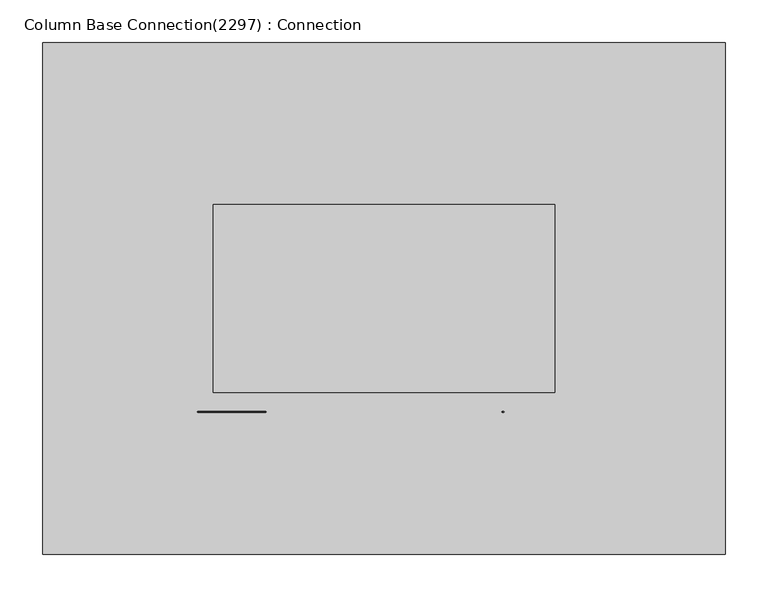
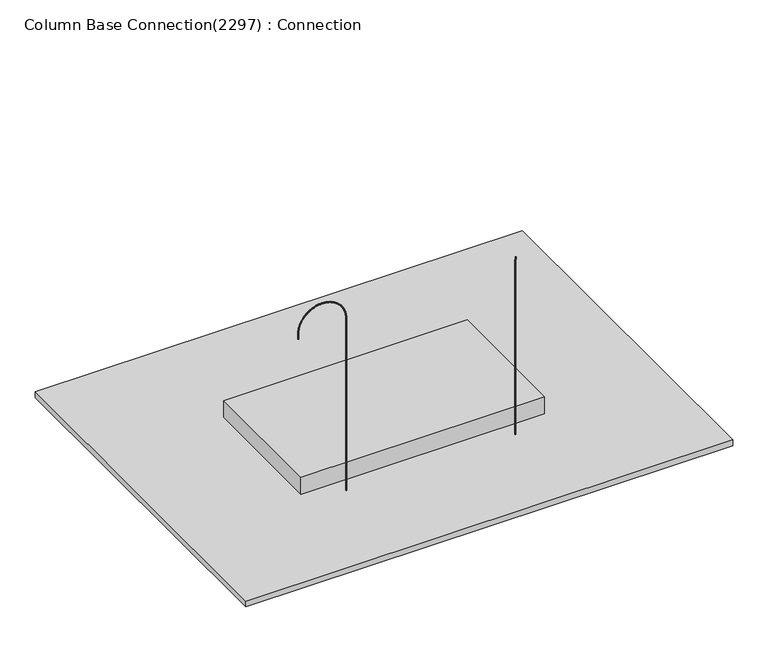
"""IFC4 building model written with IfcOpenShell, lengths in millimetres: fastener geometry, Column Base Connection(2297) : Connection."""

from ifc_helpers import new_model, si_unit, frame, origin, place, context, project, spatial, polyline, outline, extrude, source, transform, mapped, element, save


def column_base_connection_2297_connection_c4d7faf8(model_context):
    return source(origin(), model_context, "Body", "SweptSolid", [
        extrude(outline(polyline([(0.0, 0.0), (0.4, -0.6928203), (0.0, -1.3856406), (-0.8, -1.3856406), (-1.2000001, -0.6928203), (-0.8, 0.0), (0.0, 0.0)])), frame((139.2298557, -133.6928213, 276.282718), z_axis=(0.1975273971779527, 0.0, 0.9802973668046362), x_axis=(-0.9802973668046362, 0.0, 0.1975273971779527)), (0.0, 0.0, 1.0), 1.6),
        extrude(outline(polyline([(0.0, 0.0), (0.4000001, -0.6928203), (0.0, -1.3856406), (-0.7999999, -1.3856406), (-1.2, -0.6928203), (-0.7999999, 0.0), (0.0, 0.0)])), frame((138.9786296, -133.6928213, 274.7186942), z_axis=(0.158398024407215, 0.0, 0.9873753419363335), x_axis=(-0.9873753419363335, 0.0, 0.158398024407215)), (0.0, 0.0, 1.0), 1.6),
        extrude(outline(polyline([(0.0, 0.0), (0.4000001, -0.6928203), (0.0, -1.3856406), (-0.7999999, -1.3856406), (-1.2, -0.6928203), (-0.7999999, 0.0), (0.0, 0.0)])), frame((138.7897822, -133.6928213, 273.1459191), z_axis=(0.1190181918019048, 0.0, 0.9928920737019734), x_axis=(-0.9928920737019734, 0.0, 0.1190181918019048)), (0.0, 0.0, 1.0), 1.6),
        extrude(outline(polyline([(0.0, 0.0), (0.4, -0.6928203), (0.0, -1.3856406), (-0.8, -1.3856406), (-1.2, -0.6928203), (-0.8, 0.0), (0.0, 0.0)])), frame((138.6636121, -133.6928213, 271.5668795), z_axis=(0.07945016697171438, 0.0, 0.9968388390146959), x_axis=(-0.9968388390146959, 0.0, 0.07945016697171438)), (0.0, 0.0, 1.0), 1.6),
        extrude(outline(polyline([(0.0, 0.0), (0.3999999, -0.6928203), (0.0, -1.3856406), (-0.8000001, -1.3856406), (-1.2, -0.6928203), (-0.8000001, 0.0), (0.0, 0.0)])), frame((138.6003189, -133.6928213, 269.9840722), z_axis=(0.03975651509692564, 0.0, 0.999209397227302), x_axis=(-0.999209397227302, 0.0, 0.03975651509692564)), (0.0, 0.0, 1.0), 1.6),
        extrude(outline(polyline([(138.6000027, -133.6928213), (138.2000027, -133.000001), (138.6000027, -132.3071807), (139.4000027, -132.3071807), (139.8000027, -133.000001), (139.4000027, -133.6928213), (138.6000027, -133.6928213)])), frame((0.0, 0.0, -78.0), z_axis=(0.0, 0.0, 1.0), x_axis=(1.0, 0.0, 0.0)), (0.0, 0.0, 1.0), 348.0),
        extrude(outline(polyline([(-163.0000027, -109.000001), (-115.0000027, -109.000001), (-115.0000027, -157.000001), (-163.0000027, -157.000001), (-163.0000027, -109.000001)])), frame((0.0, 0.0, -50.0), z_axis=(0.0, 0.0, 1.0), x_axis=(1.0, 0.0, 0.0)), (0.0, 0.0, 1.0), 10.0),
        extrude(outline(polyline([(-217.4575041, -133.6928213), (-218.2575041, -133.6928213), (-218.6575041, -133.000001), (-218.2575041, -132.3071807), (-217.4575041, -132.3071807), (-217.0575041, -133.000001), (-217.4575041, -133.6928213)])), frame((0.0, 0.0, 260.4), z_axis=(0.0, 0.0, 1.0), x_axis=(1.0, 0.0, 0.0)), (0.0, 0.0, 1.0), 8.0),
        extrude(outline(polyline([(-217.4575041, -133.6928213), (-218.2575041, -133.6928213), (-218.6575041, -133.000001), (-218.2575041, -132.3071807), (-217.4575041, -132.3071807), (-217.0575041, -133.000001), (-217.4575041, -133.6928213)])), frame((0.0, 0.0, 268.3681696), z_axis=(0.0, 0.0, 1.0), x_axis=(1.0, 0.0, 0.0)), (0.0, 0.0, 1.0), 1.6),
        extrude(outline(polyline([(0.0, 0.0), (0.8000001, 0.0), (1.2, -0.6928203), (0.8000001, -1.3856406), (0.0, -1.3856406), (-0.3999999, -0.6928203), (0.0, 0.0)])), frame((-217.4590858, -133.6928213, 269.9204618), z_axis=(0.03975651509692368, 0.0, 0.999209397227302), x_axis=(-0.999209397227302, 0.0, 0.03975651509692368)), (0.0, 0.0, 1.0), 1.6),
        extrude(outline(polyline([(0.0, 0.0), (0.7999999, 0.0), (1.2, -0.6928203), (0.7999999, -1.3856406), (0.0, -1.3856406), (-0.4000001, -0.6928203), (0.0, 0.0)])), frame((-217.3989526, -133.6928213, 271.4715896), z_axis=(0.07945016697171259, 0.0, 0.996838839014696), x_axis=(-0.996838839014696, 0.0, 0.07945016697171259)), (0.0, 0.0, 1.0), 1.6),
        extrude(outline(polyline([(0.0, 0.0), (0.8, 0.0), (1.2, -0.6928203), (0.8, -1.3856406), (0.0, -1.3856406), (-0.4, -0.6928203), (0.0, 0.0)])), frame((-217.2771994, -133.6928213, 273.0191004), z_axis=(0.11901819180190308, 0.0, 0.9928920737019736), x_axis=(-0.9928920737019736, 0.0, 0.11901819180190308)), (0.0, 0.0, 1.0), 1.6),
        extrude(outline(polyline([(0.0, 0.0), (0.8, 0.0), (1.2000001, -0.6928203), (0.8, -1.3856406), (0.0, -1.3856406), (-0.4, -0.6928203), (0.0, 0.0)])), frame((-217.0940188, -133.6928213, 274.5605473), z_axis=(0.15839802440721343, 0.0, 0.9873753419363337), x_axis=(-0.9873753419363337, 0.0, 0.15839802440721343)), (0.0, 0.0, 1.0), 1.6),
        extrude(outline(polyline([(0.0, 0.0), (0.8, 0.0), (1.2, -0.6928203), (0.8, -1.3856406), (0.0, -1.3856406), (-0.4, -0.6928203), (0.0, 0.0)])), frame((-216.8497006, -133.6928213, 276.0934928), z_axis=(0.19752739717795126, 0.0, 0.9802973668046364), x_axis=(-0.9802973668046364, 0.0, 0.19752739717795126)), (0.0, 0.0, 1.0), 1.6),
        extrude(outline(polyline([(0.0, 0.0), (0.8, 0.0), (1.2, -0.6928203), (0.8, -1.3856406), (0.0, -1.3856406), (-0.4000001, -0.6928203), (0.0, 0.0)])), frame((-216.5446309, -133.6928213, 277.6155132), z_axis=(0.23634443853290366, 0.0, 0.9716693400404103), x_axis=(-0.9716693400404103, 0.0, 0.23634443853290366)), (0.0, 0.0, 1.0), 1.6),
        extrude(outline(polyline([(0.0, 0.0), (0.8, 0.0), (1.1999999, -0.6928203), (0.8, -1.3856406), (0.0, -1.3856406), (-0.4, -0.6928203), (0.0, 0.0)])), frame((-216.1792922, -133.6928213, 279.1242018), z_axis=(0.2747877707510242, 0.0, 0.9615049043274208), x_axis=(-0.9615049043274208, 0.0, 0.2747877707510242)), (0.0, 0.0, 1.0), 1.6),
        extrude(outline(polyline([(0.0, 0.0), (0.8, 0.0), (1.2, -0.6928203), (0.8, -1.3856406), (0.0, -1.3856406), (-0.4, -0.6928203), (0.0, 0.0)])), frame((-215.7542621, -133.6928213, 280.6171729), z_axis=(0.31279660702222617, 0.0, 0.949820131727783), x_axis=(-0.949820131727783, 0.0, 0.31279660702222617)), (0.0, 0.0, 1.0), 1.6),
        extrude(outline(polyline([(0.0, 0.0), (0.8, 0.0), (1.2, -0.6928203), (0.8, -1.3856406), (0.0, -1.3856406), (-0.4, -0.6928203), (0.0, 0.0)])), frame((-215.2702127, -133.6928213, 282.0920661), z_axis=(0.3503108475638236, 0.0, 0.9366334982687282), x_axis=(-0.9366334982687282, 0.0, 0.3503108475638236)), (0.0, 0.0, 1.0), 1.6),
        extrude(outline(polyline([(0.0, 0.0), (0.7999999, 0.0), (1.2, -0.6928203), (0.7999999, -1.3856406), (0.0, -1.3856406), (-0.4000001, -0.6928203), (0.0, 0.0)])), frame((-214.7279094, -133.6928213, 283.546549), z_axis=(0.38727117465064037, 0.0, 0.921965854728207), x_axis=(-0.921965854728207, 0.0, 0.38727117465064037)), (0.0, 0.0, 1.0), 1.6),
        extrude(outline(polyline([(0.0, 0.0), (0.8, 0.0), (1.2, -0.6928203), (0.8, -1.3856406), (0.0, -1.3856406), (-0.3999999, -0.6928203), (0.0, 0.0)])), frame((-214.1282096, -133.6928213, 284.9783219), z_axis=(0.4236191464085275, 0.0, 0.9058403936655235), x_axis=(-0.9058403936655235, 0.0, 0.4236191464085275)), (0.0, 0.0, 1.0), 1.6),
        extrude(outline(polyline([(0.0, 0.0), (0.8, 0.0), (1.2, -0.6928203), (0.8, -1.3856406), (0.0, -1.3856406), (-0.4, -0.6928203), (0.0, 0.0)])), frame((-213.4720617, -133.6928213, 286.3851209), z_axis=(0.45929728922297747, 0.0, 0.8882826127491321), x_axis=(-0.8882826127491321, 0.0, 0.45929728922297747)), (0.0, 0.0, 1.0), 1.6),
        extrude(outline(polyline([(0.0, 0.0), (0.8, 0.0), (1.2, -0.6928203), (0.8, -1.3856406), (0.0, -1.3856406), (-0.4, -0.6928203), (0.0, 0.0)])), frame((-212.7605031, -133.6928213, 287.7647216), z_axis=(0.4942491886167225, 0.0, 0.8693202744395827), x_axis=(-0.8693202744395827, 0.0, 0.4942491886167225)), (0.0, 0.0, 1.0), 1.6),
        extrude(outline(polyline([(0.0, 0.0), (0.8, 0.0), (1.2, -0.6928203), (0.8, -1.3856406), (0.0, -1.3856406), (-0.4, -0.6928203), (0.0, 0.0)])), frame((-211.994659, -133.6928213, 289.1149424), z_axis=(0.5284195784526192, 0.0, 0.848983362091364), x_axis=(-0.848983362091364, 0.0, 0.5284195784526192)), (0.0, 0.0, 1.0), 1.6),
        extrude(outline(polyline([(0.0, 0.0), (0.8000001, 0.0), (1.2, -0.6928203), (0.8000001, -1.3856406), (0.0, -1.3856406), (-0.3999999, -0.6928203), (0.0, 0.0)])), frame((-211.1757402, -133.6928213, 290.4336484), z_axis=(0.5617544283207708, 0.0, 0.8273040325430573), x_axis=(-0.8273040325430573, 0.0, 0.5617544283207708)), (0.0, 0.0, 1.0), 1.6),
        extrude(outline(polyline([(0.0, 0.0), (0.8, 0.0), (1.2000001, -0.6928203), (0.8, -1.3856406), (0.0, -1.3856406), (-0.4, -0.6928203), (0.0, 0.0)])), frame((-210.3050418, -133.6928213, 291.7187545), z_axis=(0.5942010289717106, 0.0, 0.8043165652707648), x_axis=(-0.8043165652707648, 0.0, 0.5942010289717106)), (0.0, 0.0, 1.0), 1.6),
        extrude(outline(polyline([(0.0, 0.0), (0.8, 0.0), (1.2, -0.6928203), (0.8, -1.3856406), (0.0, -1.3856406), (-0.4, -0.6928203), (0.0, 0.0)])), frame((-209.3839404, -133.6928213, 292.9682287), z_axis=(0.6257080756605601, 0.0, 0.780057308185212), x_axis=(-0.780057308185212, 0.0, 0.6257080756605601)), (0.0, 0.0, 1.0), 1.6),
        extrude(outline(polyline([(0.0, 0.0), (0.8, 0.0), (1.2, -0.6928203), (0.8, -1.3856406), (0.0, -1.3856406), (-0.4, -0.6928203), (0.0, 0.0)])), frame((-208.4138924, -133.6928213, 294.1800953), z_axis=(0.6562257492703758, 0.0, 0.75456462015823), x_axis=(-0.75456462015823, 0.0, 0.6562257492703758)), (0.0, 0.0, 1.0), 1.6),
        extrude(outline(polyline([(0.0, 0.0), (0.8, 0.0), (1.2, -0.6928203), (0.8, -1.3856406), (0.0, -1.3856406), (-0.4, -0.6928203), (0.0, 0.0)])), frame((-207.3964318, -133.6928213, 295.352438), z_axis=(0.6857057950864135, 0.0, 0.7278788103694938), x_axis=(-0.7278788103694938, 0.0, 0.6857057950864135)), (0.0, 0.0, 1.0), 1.6),
        extrude(outline(polyline([(0.0, 0.0), (0.8, 0.0), (1.2000001, -0.6928203), (0.8, -1.3856406), (0.0, -1.3856406), (-0.4, -0.6928203), (0.0, 0.0)])), frame((-206.3331674, -133.6928213, 296.4834031), z_axis=(0.7141015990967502, 0.0, 0.7000420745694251), x_axis=(-0.7000420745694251, 0.0, 0.7141015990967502)), (0.0, 0.0, 1.0), 1.6),
        extrude(outline(polyline([(0.0, 0.0), (0.8, 0.0), (1.2, -0.6928203), (0.8, -1.3856406), (0.0, -1.3856406), (-0.4, -0.6928203), (0.0, 0.0)])), frame((-205.2257803, -133.6928213, 297.5712025), z_axis=(0.7413682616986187, 0.0, 0.6710984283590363), x_axis=(-0.6710984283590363, 0.0, 0.7413682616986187)), (0.0, 0.0, 1.0), 1.6),
        extrude(outline(polyline([(0.0, 0.0), (0.8, 0.0), (1.2, -0.6928203), (0.8, -1.3856406), (0.0, -1.3856406), (-0.4, -0.6928203), (0.0, 0.0)])), frame((-204.0760216, -133.6928213, 298.614116), z_axis=(0.7674626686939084, 0.0, 0.6410936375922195), x_axis=(-0.6410936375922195, 0.0, 0.7674626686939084)), (0.0, 0.0, 1.0), 1.6),
        extrude(outline(polyline([(0.0, 0.0), (0.8, 0.0), (1.2, -0.6928203), (0.8, -1.3856406), (0.0, -1.3856406), (-0.3999999, -0.6928203), (0.0, 0.0)])), frame((-202.8857093, -133.6928213, 299.6104945), z_axis=(0.792343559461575, 0.0, 0.6100751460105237), x_axis=(-0.6100751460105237, 0.0, 0.792343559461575)), (0.0, 0.0, 1.0), 1.6),
        extrude(outline(polyline([(0.0, 0.0), (0.8, 0.0), (1.2, -0.6928203), (0.8, -1.3856406), (0.0, -1.3856406), (-0.4, -0.6928203), (0.0, 0.0)])), frame((-201.6567256, -133.6928213, 300.5587626), z_axis=(0.8159715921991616, 0.0, 0.5780920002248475), x_axis=(-0.5780920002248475, 0.0, 0.8159715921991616)), (0.0, 0.0, 1.0), 1.6),
        extrude(outline(polyline([(0.0, 0.0), (0.8, 0.0), (1.2, -0.6928203), (0.8, -1.3856406), (0.0, -1.3856406), (-0.4, -0.6928203), (0.0, 0.0)])), frame((-200.3910136, -133.6928213, 301.457421), z_axis=(0.8383094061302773, 0.0, 0.5451947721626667), x_axis=(-0.5451947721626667, 0.0, 0.8383094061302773)), (0.0, 0.0, 1.0), 1.6),
        extrude(outline(polyline([(0.0, 0.0), (0.8, 0.0), (1.2, -0.6928203), (0.8, -1.3856406), (0.0, -1.3856406), (-0.4, -0.6928203), (0.0, 0.0)])), frame((-199.0905748, -133.6928213, 302.3050485), z_axis=(0.8593216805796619, 0.0, 0.511435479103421), x_axis=(-0.511435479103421, 0.0, 0.8593216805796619)), (0.0, 0.0, 1.0), 1.6),
        extrude(outline(polyline([(0.0, 0.0), (0.8, 0.0), (1.2, -0.6928203), (0.8, -1.3856406), (0.0, -1.3856406), (-0.4, -0.6928203), (0.0, 0.0)])), frame((-197.7574655, -133.6928213, 303.100305), z_axis=(0.8789751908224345, 0.0, 0.47686750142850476), x_axis=(-0.47686750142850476, 0.0, 0.8789751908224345)), (0.0, 0.0, 1.0), 1.6),
        extrude(outline(polyline([(0.0, 0.0), (0.7999999, 0.0), (1.2, -0.6928203), (0.7999999, -1.3856406), (0.0, -1.3856406), (-0.4000001, -0.6928203), (0.0, 0.0)])), frame((-196.3937934, -133.6928213, 303.841933), z_axis=(0.897238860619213, 0.0, 0.44154549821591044), x_axis=(-0.44154549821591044, 0.0, 0.897238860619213)), (0.0, 0.0, 1.0), 1.6),
        extrude(outline(polyline([(0.0, 0.0), (0.8, 0.0), (1.1999999, -0.6928203), (0.8, -1.3856406), (0.0, -1.3856406), (-0.4000001, -0.6928203), (0.0, 0.0)])), frame((-195.0017149, -133.6928213, 304.5287598), z_axis=(0.9140838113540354, 0.0, 0.4055253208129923), x_axis=(-0.4055253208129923, 0.0, 0.9140838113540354)), (0.0, 0.0, 1.0), 1.6),
        extrude(outline(polyline([(0.0, 0.0), (0.8000001, 0.0), (1.2, -0.6928203), (0.8000001, -1.3856406), (0.0, -1.3856406), (-0.4, -0.6928203), (0.0, 0.0)])), frame((-193.5834312, -133.6928213, 305.1596993), z_axis=(0.9294834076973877, 0.0, 0.36886392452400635), x_axis=(-0.36886392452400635, 0.0, 0.9294834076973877)), (0.0, 0.0, 1.0), 1.6),
        extrude(outline(polyline([(0.0, 0.0), (0.8, 0.0), (1.2, -0.6928203), (0.8, -1.3856406), (0.0, -1.3856406), (-0.4, -0.6928203), (0.0, 0.0)])), frame((-192.1411848, -133.6928213, 305.7337541), z_axis=(0.9434132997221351, 0.0, 0.3316192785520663), x_axis=(-0.3316192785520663, 0.0, 0.9434132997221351)), (0.0, 0.0, 1.0), 1.6),
        extrude(outline(polyline([(0.0, 0.0), (0.8000001, 0.0), (1.2000001, -0.6928203), (0.8000001, -1.3856406), (0.0, -1.3856406), (-0.4, -0.6928203), (0.0, 0.0)])), frame((-190.6772562, -133.6928213, 306.2500163), z_axis=(0.9558514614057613, 0.0, 0.29385027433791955), x_axis=(-0.29385027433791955, 0.0, 0.9558514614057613)), (0.0, 0.0, 1.0), 1.6),
        extrude(outline(polyline([(0.0, 0.0), (0.8, 0.0), (1.1999999, -0.6928203), (0.8, -1.3856406), (0.0, -1.3856406), (-0.4, -0.6928203), (0.0, 0.0)])), frame((-189.1939603, -133.6928213, 306.7076697), z_axis=(0.9667782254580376, 0.0, 0.2556166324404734), x_axis=(-0.2556166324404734, 0.0, 0.9667782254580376)), (0.0, 0.0, 1.0), 1.6),
        extrude(outline(polyline([(0.0, 0.0), (0.8000001, 0.0), (1.2, -0.6928203), (0.8000001, -1.3856406), (0.0, -1.3856406), (-0.4, -0.6928203), (0.0, 0.0)])), frame((-187.6936423, -133.6928213, 307.1059905), z_axis=(0.9761763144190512, 0.0, 0.21697880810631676), x_axis=(-0.21697880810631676, 0.0, 0.9761763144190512)), (0.0, 0.0, 1.0), 1.6),
        extrude(outline(polyline([(0.0, 0.0), (0.8, 0.0), (1.2, -0.6928203), (0.8, -1.3856406), (0.0, -1.3856406), (-0.4, -0.6928203), (0.0, 0.0)])), frame((-186.1786746, -133.6928213, 307.4443491), z_axis=(0.9840308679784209, 0.0, 0.17799789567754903), x_axis=(-0.17799789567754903, 0.0, 0.9840308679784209)), (0.0, 0.0, 1.0), 1.6),
        extrude(outline(polyline([(0.0, 0.0), (0.7999999, 0.0), (1.1999999, -0.6928203), (0.7999999, -1.3856406), (0.0, -1.3856406), (-0.4, -0.6928203), (0.0, 0.0)])), frame((-184.6514528, -133.6928213, 307.7222103), z_axis=(0.9903294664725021, 0.0, 0.13873553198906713), x_axis=(-0.13873553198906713, 0.0, 0.9903294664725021)), (0.0, 0.0, 1.0), 1.6),
        extrude(outline(polyline([(0.0, 0.0), (0.8000001, 0.0), (1.2, -0.6928203), (0.8000001, -1.3856406), (0.0, -1.3856406), (-0.3999999, -0.6928203), (0.0, 0.0)])), frame((-183.1143915, -133.6928213, 307.9391347), z_axis=(0.9950621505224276, 0.0, 0.09925379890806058), x_axis=(-0.09925379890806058, 0.0, 0.9950621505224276)), (0.0, 0.0, 1.0), 1.6),
        extrude(outline(polyline([(0.0, 0.0), (0.8000001, 0.0), (1.2000001, -0.6928203), (0.8000001, -1.3856406), (0.0, -1.3856406), (-0.3999999, -0.6928203), (0.0, 0.0)])), frame((-181.5699213, -133.6928213, 308.0947795), z_axis=(0.9982214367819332, 0.0, 0.05961512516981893), x_axis=(-0.05961512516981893, 0.0, 0.9982214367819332)), (0.0, 0.0, 1.0), 1.6),
        extrude(outline(polyline([(0.0, 0.0), (0.8, 0.0), (1.2, -0.6928203), (0.8, -1.3856406), (0.0, -1.3856406), (-0.4, -0.6928203), (0.0, 0.0)])), frame((-180.0204843, -133.6928213, 308.1888985), z_axis=(0.9998023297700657, 0.0, 0.019882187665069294), x_axis=(-0.019882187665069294, 0.0, 0.9998023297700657)), (0.0, 0.0, 1.0), 1.6),
        extrude(outline(polyline([(0.0, 0.0), (0.4, -0.6928203), (0.0, -1.3856406), (-0.7999999, -1.3856406), (-1.2, -0.6928203), (-0.7999999, 0.0), (0.0, 0.0)])), frame((-176.8688466, -133.6928213, 308.1895314), z_axis=(-0.9998023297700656, 0.0, 0.019882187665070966), x_axis=(-0.019882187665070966, 0.0, -0.9998023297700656)), (0.0, 0.0, 1.0), 1.6),
        extrude(outline(polyline([(0.0, 0.0), (0.4, -0.6928203), (0.0, -1.3856406), (-0.8000001, -1.3856406), (-1.2, -0.6928203), (-0.8000001, 0.0), (0.0, 0.0)])), frame((-175.3193593, -133.6928213, 308.0966771), z_axis=(-0.9982214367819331, 0.0, 0.0596151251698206), x_axis=(-0.0596151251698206, 0.0, -0.9982214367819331)), (0.0, 0.0, 1.0), 1.6),
        extrude(outline(polyline([(0.0, 0.0), (0.3999999, -0.6928203), (0.0, -1.3856406), (-0.8000001, -1.3856406), (-1.2, -0.6928203), (-0.8000001, 0.0), (0.0, 0.0)])), frame((-173.7747885, -133.6928213, 307.942294), z_axis=(-0.9950621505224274, 0.0, 0.09925379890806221), x_axis=(-0.09925379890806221, 0.0, -0.9950621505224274)), (0.0, 0.0, 1.0), 1.6),
        extrude(outline(polyline([(0.0, 0.0), (0.4, -0.6928203), (0.0, -1.3856406), (-0.7999999, -1.3856406), (-1.1999999, -0.6928203), (-0.7999999, 0.0), (0.0, 0.0)])), frame((-172.2375766, -133.6928213, 307.7266263), z_axis=(-0.9903294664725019, 0.0, 0.13873553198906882), x_axis=(-0.13873553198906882, 0.0, -0.9903294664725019)), (0.0, 0.0, 1.0), 1.6),
        extrude(outline(polyline([(0.0, 0.0), (0.3999999, -0.6928203), (0.0, -1.3856406), (-0.8, -1.3856406), (-1.2000001, -0.6928203), (-0.8, 0.0), (0.0, 0.0)])), frame((-170.7101543, -133.6928213, 307.4500148), z_axis=(-0.9840308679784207, 0.0, 0.17799789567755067), x_axis=(-0.17799789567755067, 0.0, -0.9840308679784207)), (0.0, 0.0, 1.0), 1.6),
        extrude(outline(polyline([(0.0, 0.0), (0.4000001, -0.6928203), (0.0, -1.3856406), (-0.8, -1.3856406), (-1.1999999, -0.6928203), (-0.8, 0.0), (0.0, 0.0)])), frame((-169.1949366, -133.6928213, 307.1128971), z_axis=(-0.9761763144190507, 0.0, 0.2169788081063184), x_axis=(-0.2169788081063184, 0.0, -0.9761763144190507)), (0.0, 0.0, 1.0), 1.6),
        extrude(outline(polyline([(0.0, 0.0), (0.4, -0.6928203), (0.0, -1.3856406), (-0.7999999, -1.3856406), (-1.1999999, -0.6928203), (-0.7999999, 0.0), (0.0, 0.0)])), frame((-167.6943195, -133.6928213, 306.7158061), z_axis=(-0.9667782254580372, 0.0, 0.255616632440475), x_axis=(-0.255616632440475, 0.0, -0.9667782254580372)), (0.0, 0.0, 1.0), 1.6),
        extrude(outline(polyline([(0.0, 0.0), (0.4, -0.6928203), (0.0, -1.3856406), (-0.8, -1.3856406), (-1.1999999, -0.6928203), (-0.8, 0.0), (0.0, 0.0)])), frame((-166.2106757, -133.6928213, 306.2593697), z_axis=(-0.9558514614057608, 0.0, 0.2938502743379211), x_axis=(-0.2938502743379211, 0.0, -0.9558514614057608)), (0.0, 0.0, 1.0), 1.6),
        extrude(outline(polyline([(0.0, 0.0), (0.4000001, -0.6928203), (0.0, -1.3856406), (-0.8, -1.3856406), (-1.1999999, -0.6928203), (-0.8, 0.0), (0.0, 0.0)])), frame((-164.7463512, -133.6928213, 305.7443097), z_axis=(-0.9434132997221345, 0.0, 0.33161927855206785), x_axis=(-0.33161927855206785, 0.0, -0.9434132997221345)), (0.0, 0.0, 1.0), 1.6),
        extrude(outline(polyline([(0.0, 0.0), (0.4, -0.6928203), (0.0, -1.3856406), (-0.8000001, -1.3856406), (-1.2, -0.6928203), (-0.8000001, 0.0), (0.0, 0.0)])), frame((-163.3036614, -133.6928213, 305.1714404), z_axis=(-0.929483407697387, 0.0, 0.36886392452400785), x_axis=(-0.36886392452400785, 0.0, -0.929483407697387)), (0.0, 0.0, 1.0), 1.6),
        extrude(outline(polyline([(0.0, 0.0), (0.4000001, -0.6928203), (0.0, -1.3856406), (-0.7999999, -1.3856406), (-1.1999999, -0.6928203), (-0.7999999, 0.0), (0.0, 0.0)])), frame((-161.8848875, -133.6928213, 304.5416678), z_axis=(-0.9140838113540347, 0.0, 0.4055253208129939), x_axis=(-0.4055253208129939, 0.0, -0.9140838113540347)), (0.0, 0.0, 1.0), 1.6),
        extrude(outline(polyline([(0.0, 0.0), (0.4, -0.6928203), (0.0, -1.3856406), (-0.8, -1.3856406), (-1.2, -0.6928203), (-0.8, 0.0), (0.0, 0.0)])), frame((-160.4922729, -133.6928213, 303.8559875), z_axis=(-0.8972388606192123, 0.0, 0.4415454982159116), x_axis=(-0.4415454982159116, 0.0, -0.8972388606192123)), (0.0, 0.0, 1.0), 1.6),
        extrude(outline(polyline([(0.0, 0.0), (0.4, -0.6928203), (0.0, -1.3856406), (-0.8, -1.3856406), (-1.2, -0.6928203), (-0.8, 0.0), (0.0, 0.0)])), frame((-159.1280195, -133.6928213, 303.1154839), z_axis=(-0.8789751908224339, 0.0, 0.4768675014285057), x_axis=(-0.4768675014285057, 0.0, -0.8789751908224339)), (0.0, 0.0, 1.0), 1.6),
        extrude(outline(polyline([(0.0, 0.0), (0.4, -0.6928203), (0.0, -1.3856406), (-0.8, -1.3856406), (-1.2, -0.6928203), (-0.8, 0.0), (0.0, 0.0)])), frame((-157.7942845, -133.6928213, 302.3213277), z_axis=(-0.8593216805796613, 0.0, 0.5114354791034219), x_axis=(-0.5114354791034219, 0.0, -0.8593216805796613)), (0.0, 0.0, 1.0), 1.6),
        extrude(outline(polyline([(0.0, 0.0), (0.4, -0.6928203), (0.0, -1.3856406), (-0.8, -1.3856406), (-1.2, -0.6928203), (-0.8, 0.0), (0.0, 0.0)])), frame((-156.4931769, -133.6928213, 301.4747747), z_axis=(-0.8383094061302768, 0.0, 0.5451947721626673), x_axis=(-0.5451947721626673, 0.0, -0.8383094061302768)), (0.0, 0.0, 1.0), 1.6),
        extrude(outline(polyline([(0.0, 0.0), (0.4, -0.6928203), (0.0, -1.3856406), (-0.8, -1.3856406), (-1.2, -0.6928203), (-0.8, 0.0), (0.0, 0.0)])), frame((-155.2267539, -133.6928213, 300.5771635), z_axis=(-0.8159715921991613, 0.0, 0.5780920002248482), x_axis=(-0.5780920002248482, 0.0, -0.8159715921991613)), (0.0, 0.0, 1.0), 1.6),
        extrude(outline(polyline([(0.0, 0.0), (0.3999999, -0.6928203), (0.0, -1.3856406), (-0.8, -1.3856406), (-1.2, -0.6928203), (-0.8, 0.0), (0.0, 0.0)])), frame((-153.9970181, -133.6928213, 299.6299134), z_axis=(-0.7923435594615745, 0.0, 0.6100751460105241), x_axis=(-0.6100751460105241, 0.0, -0.7923435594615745)), (0.0, 0.0, 1.0), 1.6),
        extrude(outline(polyline([(0.0, 0.0), (0.4000001, -0.6928203), (0.0, -1.3856406), (-0.8, -1.3856406), (-1.2, -0.6928203), (-0.8, 0.0), (0.0, 0.0)])), frame((-152.8059138, -133.6928213, 298.6345222), z_axis=(-0.7674626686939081, 0.0, 0.6410936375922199), x_axis=(-0.6410936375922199, 0.0, -0.7674626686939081)), (0.0, 0.0, 1.0), 1.6),
        extrude(outline(polyline([(0.0, 0.0), (0.3999999, -0.6928203), (0.0, -1.3856406), (-0.8, -1.3856406), (-1.2, -0.6928203), (-0.8, 0.0), (0.0, 0.0)])), frame((-151.6553246, -133.6928213, 297.5925638), z_axis=(-0.7413682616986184, 0.0, 0.6710984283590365), x_axis=(-0.6710984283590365, 0.0, -0.7413682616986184)), (0.0, 0.0, 1.0), 1.6),
        extrude(outline(polyline([(0.0, 0.0), (0.4, -0.6928203), (0.0, -1.3856406), (-0.8, -1.3856406), (-1.2, -0.6928203), (-0.8, 0.0), (0.0, 0.0)])), frame((-150.5470696, -133.6928213, 296.5056858), z_axis=(-0.7141015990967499, 0.0, 0.7000420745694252), x_axis=(-0.7000420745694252, 0.0, -0.7141015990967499)), (0.0, 0.0, 1.0), 1.6),
        extrude(outline(polyline([(0.0, 0.0), (0.4, -0.6928203), (0.0, -1.3856406), (-0.8000001, -1.3856406), (-1.2000001, -0.6928203), (-0.8000001, 0.0), (0.0, 0.0)])), frame((-149.4829013, -133.6928213, 295.3756066), z_axis=(-0.6857057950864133, 0.0, 0.727878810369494), x_axis=(-0.727878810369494, 0.0, -0.6857057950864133)), (0.0, 0.0, 1.0), 1.6),
        extrude(outline(polyline([(0.0, 0.0), (0.4, -0.6928203), (0.0, -1.3856406), (-0.8, -1.3856406), (-1.2, -0.6928203), (-0.8, 0.0), (0.0, 0.0)])), frame((-148.4645023, -133.6928213, 294.2041133), z_axis=(-0.6562257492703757, 0.0, 0.75456462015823), x_axis=(-0.75456462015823, 0.0, -0.6562257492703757)), (0.0, 0.0, 1.0), 1.6),
        extrude(outline(polyline([(0.0, 0.0), (0.4, -0.6928203), (0.0, -1.3856406), (-0.8000001, -1.3856406), (-1.2, -0.6928203), (-0.8000001, 0.0), (0.0, 0.0)])), frame((-147.493483, -133.6928213, 292.9930582), z_axis=(-0.6257080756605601, 0.0, 0.780057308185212), x_axis=(-0.780057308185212, 0.0, -0.6257080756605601)), (0.0, 0.0, 1.0), 1.6),
        extrude(outline(polyline([(0.0, 0.0), (0.4, -0.6928203), (0.0, -1.3856406), (-0.8000001, -1.3856406), (-1.2000001, -0.6928203), (-0.8000001, 0.0), (0.0, 0.0)])), frame((-146.5713787, -133.6928213, 291.7443562), z_axis=(-0.5942010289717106, 0.0, 0.8043165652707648), x_axis=(-0.8043165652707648, 0.0, -0.5942010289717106)), (0.0, 0.0, 1.0), 1.6),
        extrude(outline(polyline([(0.0, 0.0), (0.4, -0.6928203), (0.0, -1.3856406), (-0.8, -1.3856406), (-1.2, -0.6928203), (-0.8, 0.0), (0.0, 0.0)])), frame((-145.6996474, -133.6928213, 290.4599818), z_axis=(-0.561754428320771, 0.0, 0.8273040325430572), x_axis=(-0.8273040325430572, 0.0, -0.561754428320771)), (0.0, 0.0, 1.0), 1.6),
        extrude(outline(polyline([(0.0, 0.0), (0.4000001, -0.6928203), (0.0, -1.3856406), (-0.7999999, -1.3856406), (-1.1999999, -0.6928203), (-0.7999999, 0.0), (0.0, 0.0)])), frame((-144.8796676, -133.6928213, 289.1419659), z_axis=(-0.5284195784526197, 0.0, 0.8489833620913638), x_axis=(-0.8489833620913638, 0.0, -0.5284195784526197)), (0.0, 0.0, 1.0), 1.6),
        extrude(outline(polyline([(0.0, 0.0), (0.4000001, -0.6928203), (0.0, -1.3856406), (-0.8, -1.3856406), (-1.2, -0.6928203), (-0.8, 0.0), (0.0, 0.0)])), frame((-144.1127358, -133.6928213, 287.7923924), z_axis=(-0.49424918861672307, 0.0, 0.8693202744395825), x_axis=(-0.8693202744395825, 0.0, -0.49424918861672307)), (0.0, 0.0, 1.0), 1.6),
        extrude(outline(polyline([(0.0, 0.0), (0.4, -0.6928203), (0.0, -1.3856406), (-0.8, -1.3856406), (-1.2, -0.6928203), (-0.8, 0.0), (0.0, 0.0)])), frame((-143.4000647, -133.6928213, 286.4133953), z_axis=(-0.459297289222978, 0.0, 0.8882826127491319), x_axis=(-0.8882826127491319, 0.0, -0.459297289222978)), (0.0, 0.0, 1.0), 1.6),
        extrude(outline(polyline([(0.0, 0.0), (0.4, -0.6928203), (0.0, -1.3856406), (-0.8000001, -1.3856406), (-1.2, -0.6928203), (-0.8000001, 0.0), (0.0, 0.0)])), frame((-142.7427812, -133.6928213, 285.0071552), z_axis=(-0.4236191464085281, 0.0, 0.9058403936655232), x_axis=(-0.9058403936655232, 0.0, -0.4236191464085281)), (0.0, 0.0, 1.0), 1.6),
        extrude(outline(polyline([(0.0, 0.0), (0.3999999, -0.6928203), (0.0, -1.3856406), (-0.8, -1.3856406), (-1.2000001, -0.6928203), (-0.8, 0.0), (0.0, 0.0)])), frame((-142.1419245, -133.6928213, 283.5758955), z_axis=(-0.3872711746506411, 0.0, 0.9219658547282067), x_axis=(-0.9219658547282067, 0.0, -0.3872711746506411)), (0.0, 0.0, 1.0), 1.6),
        extrude(outline(polyline([(0.0, 0.0), (0.4, -0.6928203), (0.0, -1.3856406), (-0.8, -1.3856406), (-1.2, -0.6928203), (-0.8, 0.0), (0.0, 0.0)])), frame((-141.5984447, -133.6928213, 282.1218795), z_axis=(-0.3503108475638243, 0.0, 0.9366334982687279), x_axis=(-0.9366334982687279, 0.0, -0.3503108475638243)), (0.0, 0.0, 1.0), 1.6),
        extrude(outline(polyline([(0.0, 0.0), (0.4, -0.6928203), (0.0, -1.3856406), (-0.8, -1.3856406), (-1.2, -0.6928203), (-0.8, 0.0), (0.0, 0.0)])), frame((-141.1132012, -133.6928213, 280.6474061), z_axis=(-0.3127966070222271, 0.0, 0.9498201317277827), x_axis=(-0.9498201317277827, 0.0, -0.3127966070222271)), (0.0, 0.0, 1.0), 1.6),
        extrude(outline(polyline([(0.0, 0.0), (0.3999999, -0.6928203), (0.0, -1.3856406), (-0.8000001, -1.3856406), (-1.2, -0.6928203), (-0.8000001, 0.0), (0.0, 0.0)])), frame((-140.6869613, -133.6928213, 279.1548068), z_axis=(-0.2747877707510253, 0.0, 0.9615049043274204), x_axis=(-0.9615049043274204, 0.0, -0.2747877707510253)), (0.0, 0.0, 1.0), 1.6),
        extrude(outline(polyline([(0.0, 0.0), (0.4, -0.6928203), (0.0, -1.3856406), (-0.8, -1.3856406), (-1.2, -0.6928203), (-0.8, 0.0), (0.0, 0.0)])), frame((-140.3203989, -133.6928213, 277.6464418), z_axis=(-0.23634443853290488, 0.0, 0.9716693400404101), x_axis=(-0.9716693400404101, 0.0, -0.23634443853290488)), (0.0, 0.0, 1.0), 1.6),
        extrude(outline(polyline([(0.0, 0.0), (0.4000001, -0.6928203), (0.0, -1.3856406), (-0.8, -1.3856406), (-1.2, -0.6928203), (-0.8, 0.0), (0.0, 0.0)])), frame((-140.0140936, -133.6928213, 276.1246961), z_axis=(-0.1975273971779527, 0.0, 0.9802973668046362), x_axis=(-0.9802973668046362, 0.0, -0.1975273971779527)), (0.0, 0.0, 1.0), 1.6),
        extrude(outline(polyline([(0.0, 0.0), (0.4000001, -0.6928203), (0.0, -1.3856406), (-0.7999999, -1.3856406), (-1.2, -0.6928203), (-0.7999999, 0.0), (0.0, 0.0)])), frame((-139.7685298, -133.6928213, 274.5919758), z_axis=(-0.158398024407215, 0.0, 0.9873753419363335), x_axis=(-0.9873753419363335, 0.0, -0.158398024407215)), (0.0, 0.0, 1.0), 1.6),
        extrude(outline(polyline([(0.0, 0.0), (0.4000001, -0.6928203), (0.0, -1.3856406), (-0.7999999, -1.3856406), (-1.2, -0.6928203), (-0.7999999, 0.0), (0.0, 0.0)])), frame((-139.5840958, -133.6928213, 273.0507046), z_axis=(-0.1190181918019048, 0.0, 0.9928920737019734), x_axis=(-0.9928920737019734, 0.0, -0.1190181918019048)), (0.0, 0.0, 1.0), 1.6),
        extrude(outline(polyline([(0.0, 0.0), (0.4, -0.6928203), (0.0, -1.3856406), (-0.8, -1.3856406), (-1.2, -0.6928203), (-0.8, 0.0), (0.0, 0.0)])), frame((-139.4610832, -133.6928213, 271.5033194), z_axis=(-0.07945016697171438, 0.0, 0.9968388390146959), x_axis=(-0.9968388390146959, 0.0, -0.07945016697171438)), (0.0, 0.0, 1.0), 1.6),
        extrude(outline(polyline([(0.0, 0.0), (0.3999999, -0.6928203), (0.0, -1.3856406), (-0.8000001, -1.3856406), (-1.2, -0.6928203), (-0.8000001, 0.0), (0.0, 0.0)])), frame((-139.3996865, -133.6928213, 269.952267), z_axis=(-0.03975651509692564, 0.0, 0.999209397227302), x_axis=(-0.999209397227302, 0.0, -0.03975651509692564)), (0.0, 0.0, 1.0), 1.6),
        extrude(outline(polyline([(-139.4000027, -133.6928213), (-139.8000027, -133.000001), (-139.4000027, -132.3071807), (-138.6000027, -132.3071807), (-138.2000027, -133.000001), (-138.6000027, -133.6928213), (-139.4000027, -133.6928213)])), frame((0.0, 0.0, -78.0), z_axis=(0.0, 0.0, 1.0), x_axis=(1.0, 0.0, 0.0)), (0.0, 0.0, 1.0), 348.0),
        extrude(outline(polyline([(-400.0000031, 300.0000023), (400.0000031, 300.0000023), (400.0000031, -300.0000023), (-400.0000031, -300.0000023), (-400.0000031, 300.0000023)])), frame((0.0, 0.0, -40.0), z_axis=(0.0, 0.0, 1.0), x_axis=(1.0, 0.0, 0.0)), (0.0, 0.0, 1.0), 10.0),
        extrude(outline(polyline([(-200.0, 110.0000008), (200.0, 110.0000008), (200.0, -110.0000008), (-200.0, -110.0000008), (-200.0, 110.0000008)])), frame((0.0, 0.0, -30.0), z_axis=(0.0, 0.0, 1.0), x_axis=(1.0, 0.0, 0.0)), (0.0, 0.0, 1.0), 30.0),
    ])


if __name__ == "__main__":
    model = new_model("IFC4")
    model_context = context("Model", 3, world=origin())
    ifc_project = project(units=[si_unit("LENGTHUNIT", "METRE", prefix="MILLI")], contexts=[model_context])
    site = spatial("IfcSite", under=ifc_project)
    building = spatial("IfcBuilding", under=site)
    placement = place(None, origin())
    column_base_connection_2297_connection_shape = column_base_connection_2297_connection_c4d7faf8(model_context)
    element("IfcFastener", 1, ObjectType="Column Base Connection(2297) : Connection", at=placement, inside=building, context=model_context, shape_type="MappedRepresentation", body=[
        mapped(column_base_connection_2297_connection_shape, transform((0.0, 0.0, 0.0), x_axis=(1.0, 0.0, 0.0), y_axis=(0.0, 1.0, 0.0), z_axis=(0.0, 0.0, 1.0))),
    ])
    save(model, "model.ifc")
